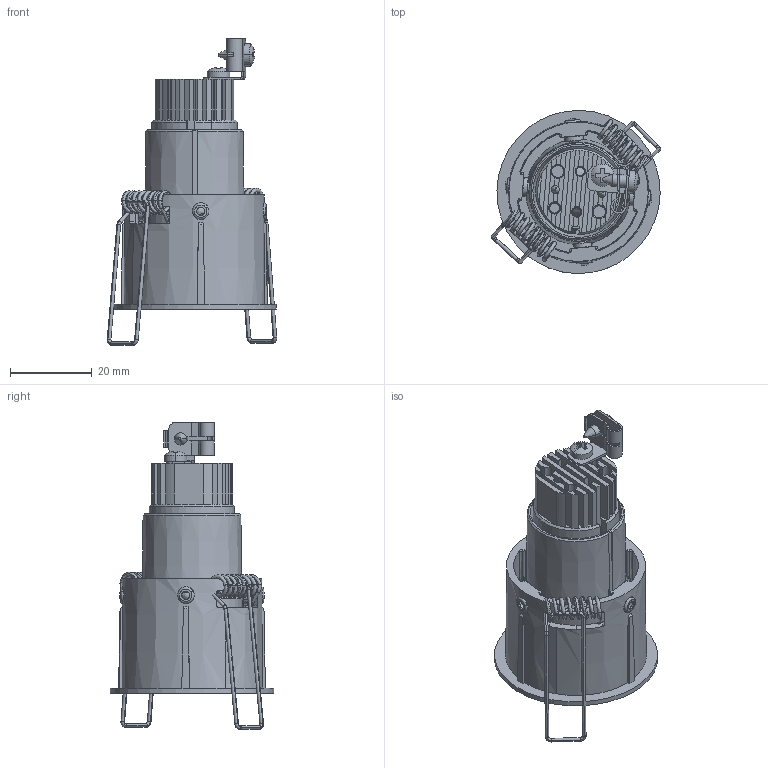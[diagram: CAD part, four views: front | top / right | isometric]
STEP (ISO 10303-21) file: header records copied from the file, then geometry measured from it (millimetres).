
FILE_DESCRIPTION((''),'2;1');
FILE_NAME('MOOD-PRO-XS-BG10B_ASM','2020-09-03T',('Administrator'),(''),'PRO/ENGINEER BY PARAMETRIC TECHNOLOGY CORPORATION, 2001280','PRO/ENGINEER BY PARAMETRIC TECHNOLOGY CORPORATION, 2001280','');
FILE_SCHEMA(('CONFIG_CONTROL_DESIGN'));
Length unit declared in the file: millimetre
Products named in the file (27): 3_42250_01_0; 1_42249_00_0; 1_41223_02_0; 1_41225_02_0; 1_41224_01_0; 1_42185_00_0; 1_41872_00_0; 1_42186_00_0; 1_42184_00_0_ASM; 1_34839_00_0; 3_42253_00_0; 1_00593_00_0; PARTBODY_1-99356; PARTBODY_2-99834; 1_35498_00_0_ASM; 1_42289_00_0; X_BG10B_00_0_ASM; _X_BG10B; X_BG10B_ASM; CD52961; PARTBODY_1-100368; PARTBODY_2-102027; PARTBODY_3; 1_42808_00_0_ASM; 26003; 23490; MOOD-PRO-XS-BG10B_ASM
Assembly tree (31 placements, depth 5):
  MOOD-PRO-XS-BG10B_ASM
    X_BG10B_ASM
      X_BG10B_00_0_ASM
        3_42250_01_0
        1_42249_00_0
        1_41223_02_0
        1_41225_02_0
        1_41224_01_0
        1_42184_00_0_ASM
          1_42185_00_0
          1_41872_00_0
          1_42186_00_0
        1_34839_00_0  x2
        3_42253_00_0
        1_00593_00_0  x2
        1_35498_00_0_ASM  x4
          PARTBODY_1-99356
          PARTBODY_2-99834
        1_42289_00_0
      _X_BG10B
    CD52961
    1_42808_00_0_ASM
      PARTBODY_1-100368
      PARTBODY_2-102027
      PARTBODY_3
    26003
    23490
Bounding box: 41.56 x 39.99 x 75.19 mm (x, y, z)
Volume: 19906.2 mm3; surface area: 27773.9 mm2
Topology: 26 solids, 35 shells, 2761 faces, 7033 edges, 4321 vertices
Faces by surface type: bspline 1341, cylinder 647, plane 486, cone 106, extrusion 70, torus 60, sphere 28, revolution 23
Entity records: 122036 total; most frequent: CARTESIAN_POINT 73029, ORIENTED_EDGE 12432, EDGE_CURVE 6250, DIRECTION 5896, B_SPLINE_CURVE_WITH_KNOTS 4060, VERTEX_POINT 3710, EDGE_LOOP 2663, FACE_OUTER_BOUND 2602
